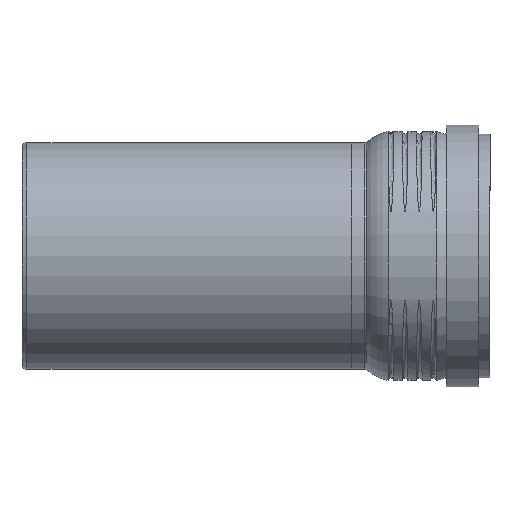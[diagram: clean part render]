
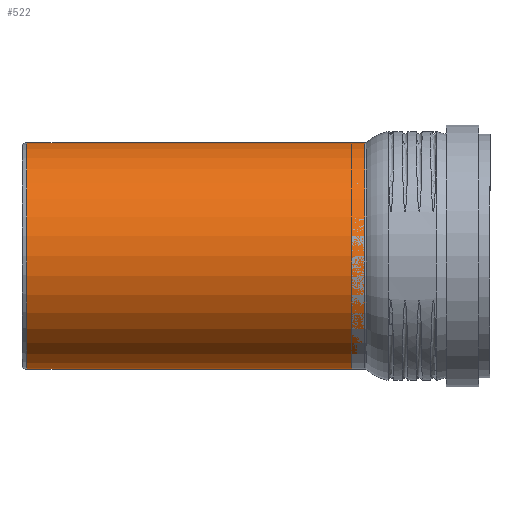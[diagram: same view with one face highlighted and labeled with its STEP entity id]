
A CAD part, top view. The second image highlights one B-rep face of the part: STEP entity #522.
In plain terms, the highlighted cylindrical face has radius 80.125 mm (diameter 160.25 mm), a full revolution.
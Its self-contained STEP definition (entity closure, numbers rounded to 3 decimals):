
#65=CYLINDRICAL_SURFACE('',#568,80.125);
#86=FACE_BOUND('',#158,.T.);
#122=FACE_OUTER_BOUND('',#157,.T.);
#157=EDGE_LOOP('',(#364));
#158=EDGE_LOOP('',(#365));
#223=CIRCLE('',#564,80.125);
#226=CIRCLE('',#569,80.125);
#248=VERTEX_POINT('',#756);
#251=VERTEX_POINT('',#764);
#301=EDGE_CURVE('',#248,#248,#223,.T.);
#304=EDGE_CURVE('',#251,#251,#226,.T.);
#364=ORIENTED_EDGE('',*,*,#304,.F.);
#365=ORIENTED_EDGE('',*,*,#301,.F.);
#522=ADVANCED_FACE('',(#122,#86),#65,.T.);
#564=AXIS2_PLACEMENT_3D('',#757,#630,#631);
#568=AXIS2_PLACEMENT_3D('',#763,#638,#639);
#569=AXIS2_PLACEMENT_3D('',#765,#640,#641);
#630=DIRECTION('center_axis',(-1.,0.,0.));
#631=DIRECTION('ref_axis',(0.,1.,0.));
#638=DIRECTION('center_axis',(1.,0.,0.));
#639=DIRECTION('ref_axis',(0.,1.,0.));
#640=DIRECTION('center_axis',(1.,0.,0.));
#641=DIRECTION('ref_axis',(0.,1.,0.));
#756=CARTESIAN_POINT('',(-117.5,-80.125,0.));
#757=CARTESIAN_POINT('Origin',(-117.5,0.,0.));
#763=CARTESIAN_POINT('Origin',(0.,0.,
0.));
#764=CARTESIAN_POINT('',(121.,-80.125,0.));
#765=CARTESIAN_POINT('Origin',(121.,0.,0.));
